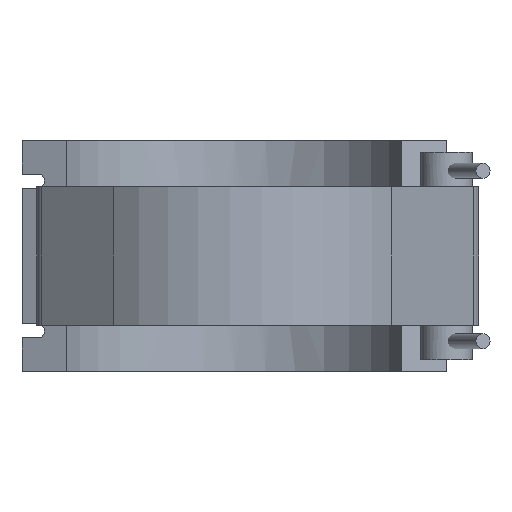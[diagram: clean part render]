
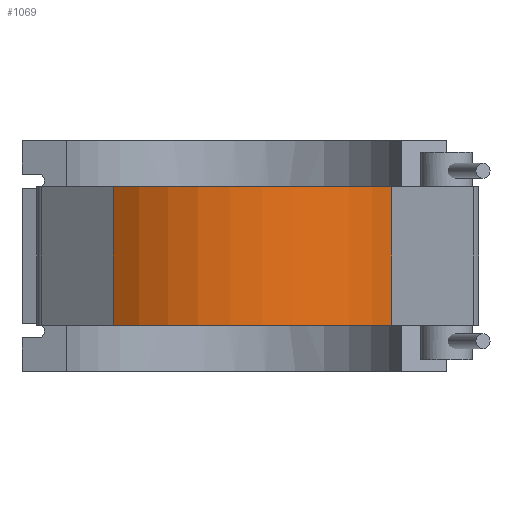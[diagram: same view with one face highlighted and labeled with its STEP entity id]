
A CAD part, front view. The second image highlights one B-rep face of the part: STEP entity #1069.
In plain terms, the highlighted cylindrical face has radius 143.167 mm (diameter 286.335 mm), a partial arc.
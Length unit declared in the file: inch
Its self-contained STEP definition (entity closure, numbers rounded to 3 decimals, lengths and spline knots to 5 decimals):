
#142=FACE_OUTER_BOUND('',#219,.T.);
#219=EDGE_LOOP('',(#940,#941,#942,#943));
#295=LINE('',#2230,#375);
#296=LINE('',#2234,#376);
#375=VECTOR('',#1494,0.3937);
#376=VECTOR('',#1497,0.3937);
#439=CIRCLE('',#1205,5.63652);
#440=CIRCLE('',#1206,5.63652);
#533=VERTEX_POINT('',#2228);
#534=VERTEX_POINT('',#2229);
#535=VERTEX_POINT('',#2231);
#536=VERTEX_POINT('',#2233);
#672=EDGE_CURVE('',#533,#534,#295,.T.);
#673=EDGE_CURVE('',#535,#533,#439,.T.);
#674=EDGE_CURVE('',#536,#535,#296,.T.);
#675=EDGE_CURVE('',#534,#536,#440,.T.);
#940=ORIENTED_EDGE('',*,*,#672,.F.);
#941=ORIENTED_EDGE('',*,*,#673,.F.);
#942=ORIENTED_EDGE('',*,*,#674,.F.);
#943=ORIENTED_EDGE('',*,*,#675,.F.);
#1010=CYLINDRICAL_SURFACE('',#1204,5.63652);
#1069=ADVANCED_FACE('',(#142),#1010,.T.);
#1204=AXIS2_PLACEMENT_3D('',#2227,#1492,#1493);
#1205=AXIS2_PLACEMENT_3D('',#2232,#1495,#1496);
#1206=AXIS2_PLACEMENT_3D('',#2235,#1498,#1499);
#1492=DIRECTION('center_axis',(0.,0.,1.));
#1493=DIRECTION('ref_axis',(-1.,0.,0.));
#1494=DIRECTION('',(0.,0.,-1.));
#1495=DIRECTION('center_axis',(0.,0.,1.));
#1496=DIRECTION('ref_axis',(-1.,0.,0.));
#1497=DIRECTION('',(0.,0.,1.));
#1498=DIRECTION('center_axis',(0.,0.,-1.));
#1499=DIRECTION('ref_axis',(-1.,0.,0.));
#2227=CARTESIAN_POINT('Origin',(0.,0.,0.));
#2228=CARTESIAN_POINT('',(4.74103,-3.04844,2.079));
#2229=CARTESIAN_POINT('',(4.74103,-3.04844,-2.079));
#2230=CARTESIAN_POINT('',(4.74103,-3.04844,0.));
#2231=CARTESIAN_POINT('',(-3.65586,-4.29011,2.079));
#2232=CARTESIAN_POINT('Origin',(0.,0.,2.079));
#2233=CARTESIAN_POINT('',(-3.65586,-4.29011,-2.079));
#2234=CARTESIAN_POINT('',(-3.65586,-4.29011,0.));
#2235=CARTESIAN_POINT('Origin',(0.,0.,-2.079));
